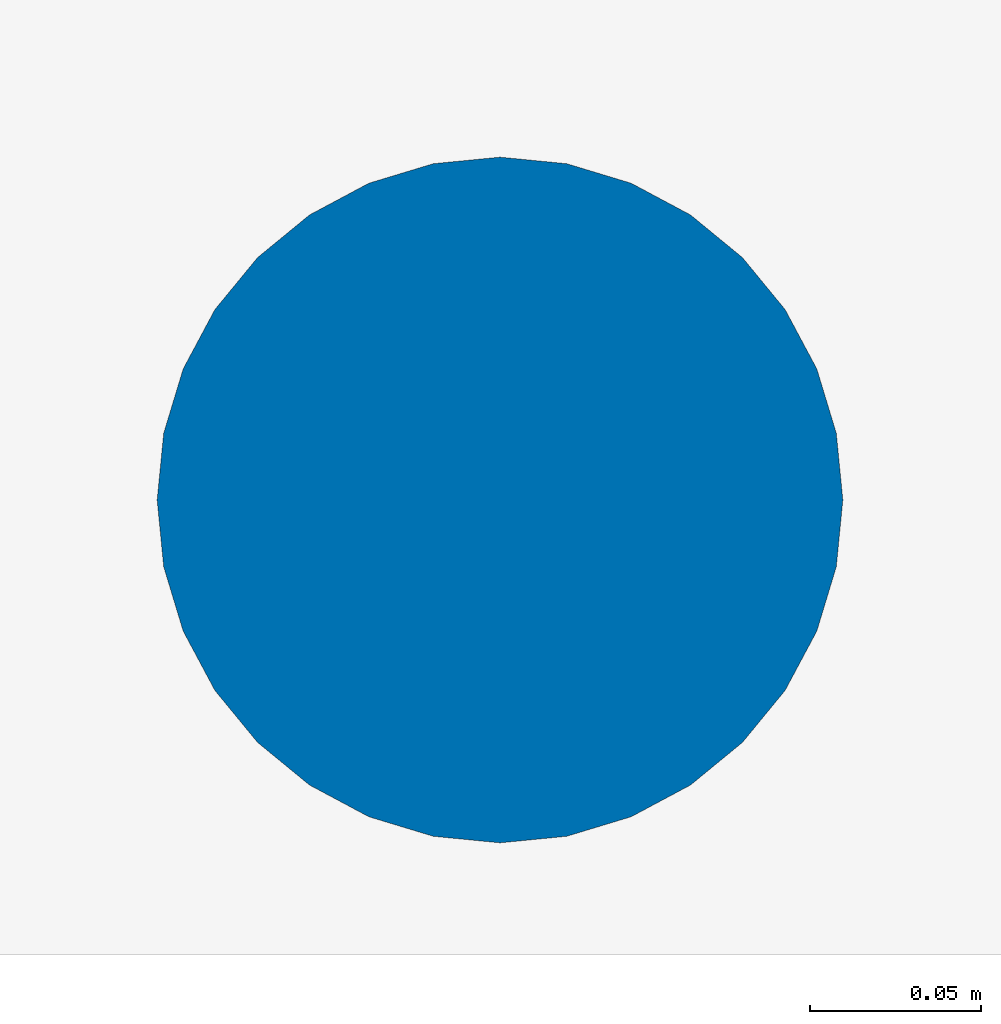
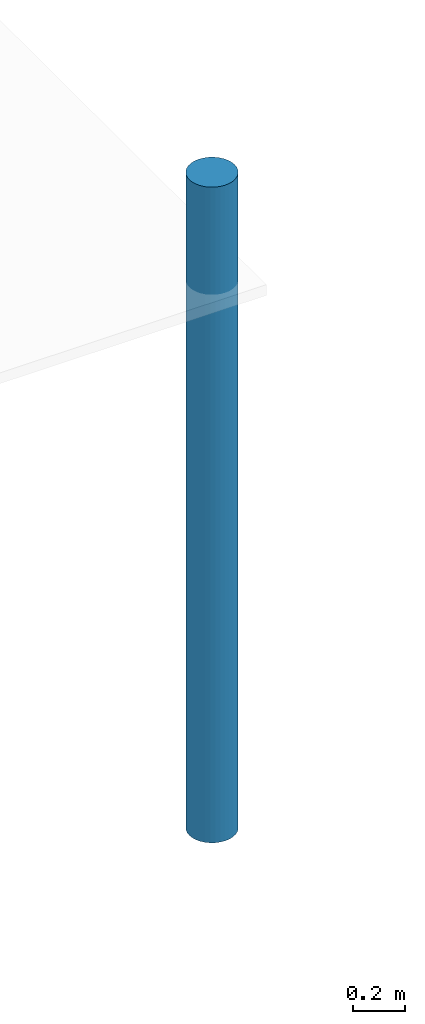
# One storey, part 1 of 4: 1 column.
"""IFC2X3 building model written with IfcOpenShell, lengths in centimetres."""

from ifc_helpers import new_model, entity, si_unit, converted_unit, derived_unit, direction, frame, frame_2d, origin, place, context, subcontext, project, spatial, circle, extrude, source, transform, mapped, material, type_object, type_shapes, element, save


model = new_model("IFC2X3")

# Units and contexts
model_context = context("Model", 3, precision=0.001, world=origin(), true_north=direction((6.12303176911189e-17, 1.0)))
body_context = subcontext(model_context, "Body", "Model", "MODEL_VIEW")
ifc_project = project(units=[si_unit("LENGTHUNIT", "METRE", prefix="CENTI"), si_unit("AREAUNIT", "SQUARE_METRE"), si_unit("VOLUMEUNIT", "CUBIC_METRE"), converted_unit("PLANEANGLEUNIT", "DEGREE", entity("IfcRatioMeasure", 0.0174532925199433), si_unit("PLANEANGLEUNIT", "RADIAN"), dimensions=[0, 0, 0, 0, 0, 0, 0]), si_unit("MASSUNIT", "GRAM", prefix="KILO"), si_unit("TIMEUNIT", "SECOND"), si_unit("FREQUENCYUNIT", "HERTZ"), si_unit("THERMODYNAMICTEMPERATUREUNIT", "DEGREE_CELSIUS"), derived_unit("THERMALTRANSMITTANCEUNIT", [(si_unit("MASSUNIT", "GRAM", prefix="KILO"), 1), (si_unit("THERMODYNAMICTEMPERATUREUNIT", "KELVIN"), -1), (si_unit("TIMEUNIT", "SECOND"), -3)]), derived_unit("VOLUMETRICFLOWRATEUNIT", [(si_unit("LENGTHUNIT", "METRE"), 3), (si_unit("TIMEUNIT", "SECOND"), -1)]), si_unit("ELECTRICCURRENTUNIT", "AMPERE"), si_unit("ELECTRICVOLTAGEUNIT", "VOLT"), si_unit("POWERUNIT", "WATT"), si_unit("FORCEUNIT", "NEWTON", prefix="KILO"), si_unit("ILLUMINANCEUNIT", "LUX"), si_unit("LUMINOUSFLUXUNIT", "LUMEN"), si_unit("LUMINOUSINTENSITYUNIT", "CANDELA"), derived_unit("USERDEFINED", [(si_unit("MASSUNIT", "GRAM", prefix="KILO"), -1), (si_unit("LENGTHUNIT", "METRE"), -2), (si_unit("TIMEUNIT", "SECOND"), 3), (si_unit("LUMINOUSFLUXUNIT", "LUMEN"), 1)]), derived_unit("LINEARVELOCITYUNIT", [(si_unit("LENGTHUNIT", "METRE"), 1), (si_unit("TIMEUNIT", "SECOND"), -1)]), si_unit("PRESSUREUNIT", "PASCAL"), derived_unit("USERDEFINED", [(si_unit("LENGTHUNIT", "METRE"), -2), (si_unit("MASSUNIT", "GRAM", prefix="KILO"), 1), (si_unit("TIMEUNIT", "SECOND"), -2)])], contexts=[model_context])

# Site, building, storey
site_placement = place(None, frame((8.62739174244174, -249.285249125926, 0.0)))
site = spatial("IfcSite", under=ifc_project, at=site_placement, Name="Default", CompositionType="ELEMENT")
building_placement = place(site_placement, origin())
building = spatial("IfcBuilding", under=site, at=building_placement, CompositionType="ELEMENT")
storey_placement = place(building_placement, frame((0.0, 0.0, 30.0)))
storey = spatial("IfcBuildingStorey", under=building, at=storey_placement, Name="vestiaires", CompositionType="ELEMENT", Elevation=30.0)

# Column
ifc_material = material(Name="Béton, coulé sur place")
column_type = type_object("IfcColumnType", Name="Diamètre de 800 m", PredefinedType="COLUMN", material=ifc_material)
shared_shape = source(origin(), body_context, "Body", "SweptSolid", [
    extrude(circle(Radius=9.99999999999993, at=frame_2d((-2.06619585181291e-15, 3.3333333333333), x_axis=(1.0, 0.0))), frame((0.0, 3.33333333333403, 30.0), z_axis=(0.0, 0.0, 1.0), x_axis=(-1.0, 0.0, 0.0)), (0.0, 0.0, 1.0), 305.0),
])
type_shapes(column_type, [shared_shape])
column_placement = place(storey_placement, frame((1516.90482779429, 1509.73020806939, -30.0), z_axis=(0.0, 0.0, 1.0), x_axis=(0.0, 1.0, 0.0)))
element("IfcColumn", 1, at=column_placement, inside=storey, type_object=column_type, material=ifc_material, Name="Poteau porteur rond simple:Diamètre de 800 m", ObjectType="Diamètre de 800 m", context=body_context, shape_type="MappedRepresentation", body=[
    mapped(shared_shape, transform((0.0, 0.0, 0.0), scale=1.0)),
])

save(model, "model.ifc")
